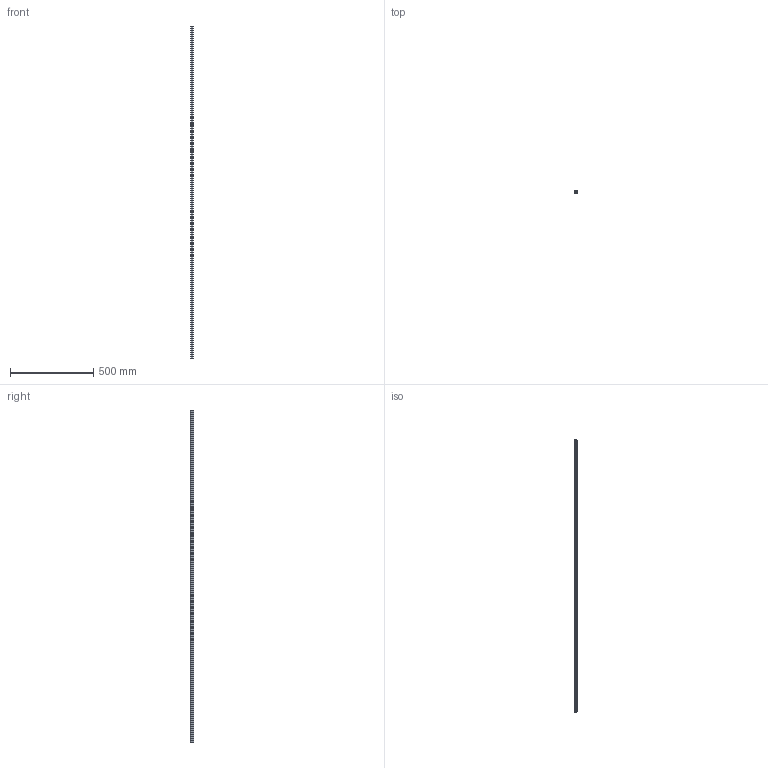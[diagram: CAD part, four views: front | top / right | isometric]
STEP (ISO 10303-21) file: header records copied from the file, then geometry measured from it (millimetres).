
FILE_DESCRIPTION(/* description */ ('Profilo scorrimento Prof. cava 10-8 serie 40-30 L=2000 mm'),/* implementation_level */ '2;1');
FILE_NAME(/* name */ 'C:\Users\Stefan.Nesic\Desktop\01010STEP\SPG4030.stp',/* time_stamp */ '2022-06-17T15:21:53+02:00',/* author */ ('Davide'),/* organization */ (''),/* preprocessor_version */ 'ST-DEVELOPER v18.1',/* originating_system */ 'Autodesk Inventor 2021',/* authorisation */ '');
FILE_SCHEMA (('AUTOMOTIVE_DESIGN { 1 0 10303 214 3 1 1 }'));
Length unit declared in the file: millimetre
Products named in the file (1): SPG4030
Bounding box: 18 x 20 x 2000 mm (x, y, z)
Volume: 513637.9 mm3; surface area: 189957 mm2
Topology: 1 solids, 1 shells, 26 faces, 72 edges, 48 vertices
Faces by surface type: plane 26
Entity records: 857 total; most frequent: CARTESIAN_POINT 147, ORIENTED_EDGE 144, DIRECTION 126, LINE 72, VECTOR 72, EDGE_CURVE 72, VERTEX_POINT 48, AXIS2_PLACEMENT_3D 27
